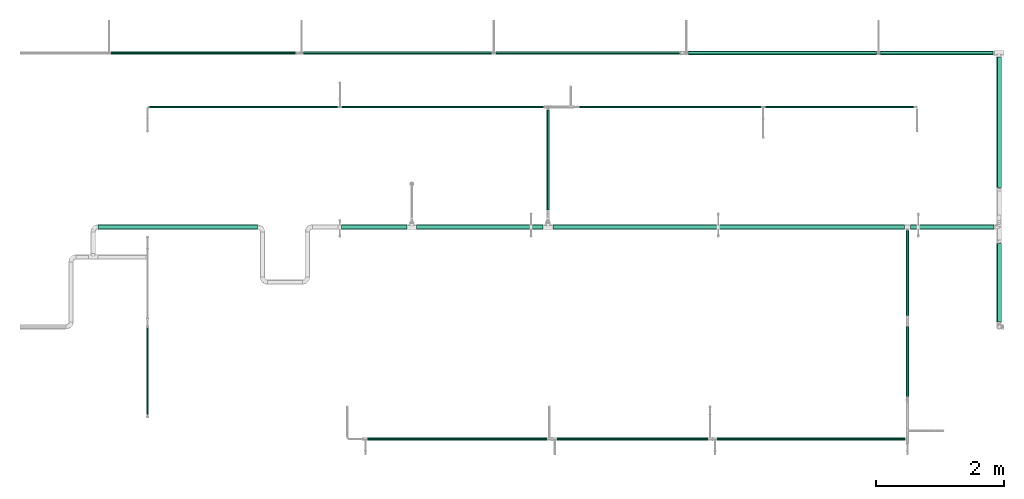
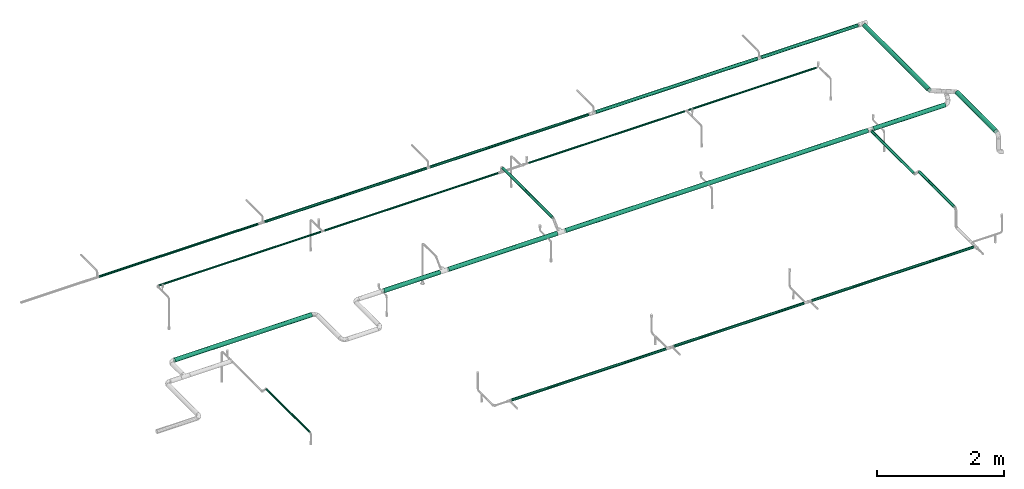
# One storey, part 1 of 51: 23 flow segments.
"""IFC2X3 building model written with IfcOpenShell, lengths in millimetres."""

from ifc_helpers import new_model, entity, si_unit, converted_unit, derived_unit, direction, frame, origin_with_axes, origin_2d_with_axis, place, context, subcontext, project, spatial, hollow_circle, extrude, source, transform, mapped, type_object, element, save


model = new_model("IFC2X3")

# Units and contexts
model_context = context("Model", 3, precision=0.01, world=frame((0.0, 4.29681676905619e-09, 0.0)), true_north=direction((4.01073788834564e-13, 1.0)))
plan_context = context("Plan", 3, precision=0.01, world=frame((0.0, 4.29681676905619e-09, 0.0)), true_north=direction((4.01073788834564e-13, 1.0)))
body_context = subcontext(model_context, "Body", "Model", "MODEL_VIEW")
ifc_project = project(units=[converted_unit("PLANEANGLEUNIT", "DEGREE", entity("IfcPositiveLengthMeasure", 0.0174532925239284), si_unit("PLANEANGLEUNIT", "RADIAN"), dimensions=[0, 0, 0, 0, 0, 0, 0]), si_unit("AREAUNIT", "SQUARE_METRE"), si_unit("LENGTHUNIT", "METRE", prefix="MILLI"), si_unit("MASSUNIT", "GRAM", prefix="KILO"), si_unit("POWERUNIT", "WATT"), si_unit("PRESSUREUNIT", "PASCAL"), si_unit("FORCEUNIT", "NEWTON", prefix="KILO"), si_unit("ELECTRICVOLTAGEUNIT", "VOLT"), si_unit("ELECTRICCURRENTUNIT", "AMPERE"), si_unit("THERMODYNAMICTEMPERATUREUNIT", "DEGREE_CELSIUS"), si_unit("TIMEUNIT", "SECOND"), si_unit("VOLUMEUNIT", "CUBIC_METRE"), derived_unit("LINEARVELOCITYUNIT", [(si_unit("LENGTHUNIT", "METRE"), 1), (si_unit("TIMEUNIT", "SECOND"), -1)]), derived_unit("VOLUMETRICFLOWRATEUNIT", [(si_unit("VOLUMEUNIT", "CUBIC_METRE"), 1), (si_unit("TIMEUNIT", "SECOND"), -1)]), derived_unit("THERMALTRANSMITTANCEUNIT", [(si_unit("POWERUNIT", "WATT"), 1), (si_unit("THERMODYNAMICTEMPERATUREUNIT", "KELVIN"), -1), (si_unit("AREAUNIT", "SQUARE_METRE"), -1)]), derived_unit("SOUNDPRESSUREUNIT", [(si_unit("PRESSUREUNIT", "PASCAL"), 1)])], contexts=[model_context, plan_context])

# Site, building, storey
site_placement = place(None, frame((0.0, -4.29681676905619e-09, 0.0), z_axis=(0.0, 0.0, 1.0), x_axis=(1.0, 0.0, 0.0)))
site = spatial("IfcSite", under=ifc_project, at=site_placement, Name="ENGM", CompositionType="ELEMENT")
building_placement = place(site_placement, frame((0.0, 4.29681676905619e-09, 0.0), z_axis=(0.0, 0.0, 1.0), x_axis=(1.0, 0.0, 0.0)))
building = spatial("IfcBuilding", under=site, at=building_placement, Name="TH", CompositionType="ELEMENT")
storey_placement = place(building_placement, frame((0.0, 0.0, 210200.0), z_axis=(0.0, 0.0, 1.0), x_axis=(1.0, 0.0, 0.0)))
storey = spatial("IfcBuildingStorey", under=building, at=storey_placement, Name="Nivå F - 0,7 m", CompositionType="ELEMENT", Elevation=210200.0)

# Flow segments
pipe_segment_type = type_object("IfcPipeSegmentType", Name="Stålrør normaltykke", PredefinedType="RIGIDSEGMENT")
shared_shape_1 = source(origin_with_axes(), body_context, "Body", "SweptSolid", [
    extrude(hollow_circle(Radius=38.0, WallThickness=2.0, at=origin_2d_with_axis()), frame((0.0, 0.0, 0.0), z_axis=(1.0, 0.0, 0.0), x_axis=(0.0, 1.0, 0.0)), (0.0, 0.0, 1.0), 2038.4),
])
flow_segment_1_placement = place(storey_placement, frame((910379.87531, 486982.95129, 2820.0), z_axis=(0.0, 0.0, 1.0), x_axis=(0.0, -1.0, 0.0)))
element("IfcFlowSegment", 1, at=flow_segment_1_placement, inside=storey, type_object=pipe_segment_type, Name="Stålrør normaltykke", context=body_context, shape_type="MappedRepresentation", body=[
    mapped(shared_shape_1, transform((0.0, 0.0, 0.0), scale=1.0)),
])
shared_shape_2 = source(origin_with_axes(), body_context, "Body", "SweptSolid", [
    extrude(hollow_circle(Radius=38.0, WallThickness=2.0, at=origin_2d_with_axis()), frame((0.0, 0.0, 0.0), z_axis=(1.0, 0.0, 0.0), x_axis=(0.0, 1.0, 0.0)), (0.0, 0.0, 1.0), 1224.1),
])
flow_segment_2_placement = place(storey_placement, frame((910379.87531, 482848.17183, 3300.0337), z_axis=(0.0, 0.0, 1.0), x_axis=(0.0, 1.0, 0.0)))
element("IfcFlowSegment", 2, at=flow_segment_2_placement, inside=storey, type_object=pipe_segment_type, Name="Stålrør normaltykke", context=body_context, shape_type="MappedRepresentation", body=[
    mapped(shared_shape_2, transform((0.0, 0.0, 0.0), scale=1.0)),
])
shared_shape_3 = source(origin_with_axes(), body_context, "Body", "SweptSolid", [
    extrude(hollow_circle(Radius=30.1, WallThickness=2.0, at=origin_2d_with_axis()), frame((0.0, 0.0, 0.0), z_axis=(1.0, 0.0, 0.0), x_axis=(0.0, 1.0, 0.0)), (0.0, 0.0, 1.0), 1754.2),
])
flow_segment_3_placement = place(storey_placement, frame((910287.87531, 487040.10129, 2819.99995999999), z_axis=(0.0, 0.0, 1.0), x_axis=(-1.0, 0.0, 0.0)))
element("IfcFlowSegment", 3, at=flow_segment_3_placement, inside=storey, type_object=pipe_segment_type, Name="Stålrør normaltykke", context=body_context, shape_type="MappedRepresentation", body=[
    mapped(shared_shape_3, transform((0.0, 0.0, 0.0), scale=1.0)),
])
shared_shape_4 = source(origin_with_axes(), body_context, "Body", "SweptSolid", [
    extrude(hollow_circle(Radius=30.1, WallThickness=2.0, at=origin_2d_with_axis()), frame((0.0, 0.0, 0.0), z_axis=(1.0, 0.0, 0.0), x_axis=(0.0, 1.0, 0.0)), (0.0, 0.0, 1.0), 2932.4),
])
flow_segment_4_placement = place(storey_placement, frame((908466.11443, 487040.10129, 2819.99995999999), z_axis=(0.0, 0.0, 1.0), x_axis=(-1.0, 0.0, 0.0)))
element("IfcFlowSegment", 4, at=flow_segment_4_placement, inside=storey, type_object=pipe_segment_type, Name="Stålrør normaltykke", context=body_context, shape_type="MappedRepresentation", body=[
    mapped(shared_shape_4, transform((0.0, 0.0, 0.0), scale=1.0)),
])
shared_shape_5 = source(origin_with_axes(), body_context, "Body", "SweptSolid", [
    extrude(hollow_circle(Radius=24.1, WallThickness=2.0, at=origin_2d_with_axis()), frame((0.0, 0.0, 0.0), z_axis=(1.0, 0.0, 0.0), x_axis=(0.0, 1.0, 0.0)), (0.0, 0.0, 1.0), 2932.4),
])
flow_segment_5_placement = place(storey_placement, frame((902466.11443, 487040.10129, 2819.99995999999), z_axis=(0.0, 0.0, 1.0), x_axis=(-1.0, 0.0, 0.0)))
element("IfcFlowSegment", 5, at=flow_segment_5_placement, inside=storey, type_object=pipe_segment_type, Name="Stålrør normaltykke", context=body_context, shape_type="MappedRepresentation", body=[
    mapped(shared_shape_5, transform((0.0, 0.0, 0.0), scale=1.0)),
])
shared_shape_6 = source(origin_with_axes(), body_context, "Body", "SweptSolid", [
    extrude(hollow_circle(Radius=21.2, WallThickness=2.0, at=origin_2d_with_axis()), frame((0.0, 0.0, 0.0), z_axis=(1.0, 0.0, 0.0), x_axis=(0.0, 1.0, 0.0)), (0.0, 0.0, 1.0), 2876.3),
])
flow_segment_6_placement = place(storey_placement, frame((899410.01443, 487040.10129, 2819.99995999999), z_axis=(0.0, 0.0, 1.0), x_axis=(-1.0, 0.0, 0.0)))
element("IfcFlowSegment", 6, at=flow_segment_6_placement, inside=storey, type_object=pipe_segment_type, Name="Stålrør normaltykke", context=body_context, shape_type="MappedRepresentation", body=[
    mapped(shared_shape_6, transform((0.0, 0.0, 0.0), scale=1.0)),
])
shared_shape_7 = source(origin_with_axes(), body_context, "Body", "SweptSolid", [
    extrude(hollow_circle(Radius=24.1, WallThickness=2.0, at=origin_2d_with_axis()), frame((0.0, 0.0, 0.0), z_axis=(1.0, 0.0, 0.0), x_axis=(0.0, 1.0, 0.0)), (0.0, 0.0, 1.0), 2870.4),
])
flow_segment_7_placement = place(storey_placement, frame((905404.14183, 487040.10129, 2819.99995999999), z_axis=(0.0, 0.0, 1.0), x_axis=(-1.0, 0.0, 0.0)))
element("IfcFlowSegment", 7, at=flow_segment_7_placement, inside=storey, type_object=pipe_segment_type, Name="Stålrør normaltykke", context=body_context, shape_type="MappedRepresentation", body=[
    mapped(shared_shape_7, transform((0.0, 0.0, 0.0), scale=1.0)),
])
shared_shape_8 = source(origin_with_axes(), body_context, "Body", "SweptSolid", [
    extrude(hollow_circle(Radius=24.1, WallThickness=2.0, at=origin_2d_with_axis()), frame((0.0, 0.0, 0.0), z_axis=(1.0, 0.0, 0.0), x_axis=(0.0, 1.0, 0.0)), (0.0, 0.0, 1.0), 1562.2),
])
flow_segment_8_placement = place(storey_placement, frame((903344.15403, 486152.62538, 3053.0), z_axis=(0.0, 0.0, 1.0), x_axis=(0.0, -1.0, 0.0)))
element("IfcFlowSegment", 8, at=flow_segment_8_placement, inside=storey, type_object=pipe_segment_type, Name="Stålrør normaltykke", context=body_context, shape_type="MappedRepresentation", body=[
    mapped(shared_shape_8, transform((0.0, 0.0, 0.0), scale=1.0)),
])
shared_shape_9 = source(origin_with_axes(), body_context, "Body", "SweptSolid", [
    extrude(hollow_circle(Radius=16.9, WallThickness=2.0, at=origin_2d_with_axis()), frame((0.0, 0.0, 0.0), z_axis=(1.0, 0.0, 0.0), x_axis=(0.0, 1.0, 0.0)), (0.0, 0.0, 1.0), 2318.8),
])
flow_segment_9_placement = place(storey_placement, frame((906733.8, 486201.02538, 2949.56988), z_axis=(0.0, 0.0, 1.0), x_axis=(1.0, 0.0, 0.0)))
element("IfcFlowSegment", 9, at=flow_segment_9_placement, inside=storey, type_object=pipe_segment_type, Name="Stålrør normaltykke", context=body_context, shape_type="MappedRepresentation", body=[
    mapped(shared_shape_9, transform((0.0, 0.0, 0.0), scale=1.0)),
])
shared_shape_10 = source(origin_with_axes(), body_context, "Body", "SweptSolid", [
    extrude(hollow_circle(Radius=16.9, WallThickness=2.0, at=origin_2d_with_axis()), frame((0.0, 0.0, 0.0), z_axis=(1.0, 0.0, 0.0), x_axis=(0.0, 1.0, 0.0)), (0.0, 0.0, 1.0), 2932.4),
])
flow_segment_10_placement = place(storey_placement, frame((900066.2, 486201.02538, 2949.56988), z_axis=(0.0, 0.0, 1.0), x_axis=(-1.0, 0.0, 0.0)))
element("IfcFlowSegment", 10, at=flow_segment_10_placement, inside=storey, type_object=pipe_segment_type, Name="Stålrør normaltykke", context=body_context, shape_type="MappedRepresentation", body=[
    mapped(shared_shape_10, transform((0.0, 0.0, 0.0), scale=1.0)),
])
shared_shape_11 = source(origin_with_axes(), body_context, "Body", "SweptSolid", [
    extrude(hollow_circle(Radius=24.1, WallThickness=2.0, at=origin_2d_with_axis()), frame((0.0, 0.0, 0.0), z_axis=(1.0, 0.0, 0.0), x_axis=(0.0, 1.0, 0.0)), (0.0, 0.0, 1.0), 1096.7),
])
flow_segment_11_placement = place(storey_placement, frame((908949.82472, 481683.76097, 3060.0), z_axis=(0.0, 0.0, 1.0), x_axis=(0.0, 1.0, 0.0)))
element("IfcFlowSegment", 11, at=flow_segment_11_placement, inside=storey, type_object=pipe_segment_type, Name="Stålrør normaltykke", context=body_context, shape_type="MappedRepresentation", body=[
    mapped(shared_shape_11, transform((0.0, 0.0, 0.0), scale=1.0)),
])
shared_shape_12 = source(origin_with_axes(), body_context, "Body", "SweptSolid", [
    extrude(hollow_circle(Radius=24.1, WallThickness=2.0, at=origin_2d_with_axis()), frame((0.0, 0.0, 0.0), z_axis=(1.0, 0.0, 0.0), x_axis=(0.0, 1.0, 0.0)), (0.0, 0.0, 1.0), 1324.7),
])
flow_segment_12_placement = place(storey_placement, frame((908949.82472, 482947.55976, 2933.0), z_axis=(0.0, 0.0, 1.0), x_axis=(0.0, 1.0, 0.0)))
element("IfcFlowSegment", 12, at=flow_segment_12_placement, inside=storey, type_object=pipe_segment_type, Name="Stålrør normaltykke", context=body_context, shape_type="MappedRepresentation", body=[
    mapped(shared_shape_12, transform((0.0, 0.0, 0.0), scale=1.0)),
])
shared_shape_13 = source(origin_with_axes(), body_context, "Body", "SweptSolid", [
    extrude(hollow_circle(Radius=24.1, WallThickness=2.0, at=origin_2d_with_axis()), frame((0.0, 0.0, 0.0), z_axis=(1.0, 0.0, 0.0), x_axis=(0.0, 1.0, 0.0)), (0.0, 0.0, 1.0), 2929.9),
])
flow_segment_13_placement = place(storey_placement, frame((905983.62472, 481023.05237, 2700.0), z_axis=(0.0, 0.0, 1.0), x_axis=(1.0, 0.0, 0.0)))
element("IfcFlowSegment", 13, at=flow_segment_13_placement, inside=storey, type_object=pipe_segment_type, Name="Stålrør normaltykke", context=body_context, shape_type="MappedRepresentation", body=[
    mapped(shared_shape_13, transform((0.0, 0.0, 0.0), scale=1.0)),
])
shared_shape_14 = source(origin_with_axes(), body_context, "Body", "SweptSolid", [
    extrude(hollow_circle(Radius=16.9, WallThickness=2.0, at=origin_2d_with_axis()), frame((0.0, 0.0, 0.0), z_axis=(1.0, 0.0, 0.0), x_axis=(0.0, 1.0, 0.0)), (0.0, 0.0, 1.0), 1358.1),
])
flow_segment_14_placement = place(storey_placement, frame((897100.0, 482761.08341, 3056.95199999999), z_axis=(0.0, 0.0, 1.0), x_axis=(0.0, -1.0, 0.0)))
element("IfcFlowSegment", 14, at=flow_segment_14_placement, inside=storey, type_object=pipe_segment_type, Name="Stålrør normaltykke", context=body_context, shape_type="MappedRepresentation", body=[
    mapped(shared_shape_14, transform((0.0, 0.0, 0.0), scale=1.0)),
])
shared_shape_15 = source(origin_with_axes(), body_context, "Body", "SweptSolid", [
    extrude(hollow_circle(Radius=16.9, WallThickness=2.0, at=origin_2d_with_axis()), frame((0.0, 0.0, 0.0), z_axis=(1.0, 0.0, 0.0), x_axis=(0.0, 1.0, 0.0)), (0.0, 0.0, 1.0), 3147.4),
])
flow_segment_15_placement = place(storey_placement, frame((903281.15403, 486201.02538, 2949.56988), z_axis=(0.0, 0.0, 1.0), x_axis=(-1.0, 0.0, 0.0)))
element("IfcFlowSegment", 15, at=flow_segment_15_placement, inside=storey, type_object=pipe_segment_type, Name="Stålrør normaltykke", context=body_context, shape_type="MappedRepresentation", body=[
    mapped(shared_shape_15, transform((0.0, 0.0, 0.0), scale=1.0)),
])
shared_shape_16 = source(origin_with_axes(), body_context, "Body", "SweptSolid", [
    extrude(hollow_circle(Radius=16.9, WallThickness=2.0, at=origin_2d_with_axis()), frame((0.0, 0.0, 0.0), z_axis=(1.0, 0.0, 0.0), x_axis=(0.0, 1.0, 0.0)), (0.0, 0.0, 1.0), 2832.4),
])
flow_segment_16_placement = place(storey_placement, frame((903833.8, 486201.02538, 2949.56988), z_axis=(0.0, 0.0, 1.0), x_axis=(1.0, 0.0, 0.0)))
element("IfcFlowSegment", 16, at=flow_segment_16_placement, inside=storey, type_object=pipe_segment_type, Name="Stålrør normaltykke", context=body_context, shape_type="MappedRepresentation", body=[
    mapped(shared_shape_16, transform((0.0, 0.0, 0.0), scale=1.0)),
])
shared_shape_17 = source(origin_with_axes(), body_context, "Body", "SweptSolid", [
    extrude(hollow_circle(Radius=24.1, WallThickness=2.0, at=origin_2d_with_axis()), frame((0.0, 0.0, 0.0), z_axis=(1.0, 0.0, 0.0), x_axis=(0.0, 1.0, 0.0)), (0.0, 0.0, 1.0), 2353.6),
])
flow_segment_17_placement = place(storey_placement, frame((903483.62472, 481023.05237, 2700.0), z_axis=(0.0, 0.0, 1.0), x_axis=(1.0, 0.0, 0.0)))
element("IfcFlowSegment", 17, at=flow_segment_17_placement, inside=storey, type_object=pipe_segment_type, Name="Stålrør normaltykke", context=body_context, shape_type="MappedRepresentation", body=[
    mapped(shared_shape_17, transform((0.0, 0.0, 0.0), scale=1.0)),
])
shared_shape_18 = source(origin_with_axes(), body_context, "Body", "SweptSolid", [
    extrude(hollow_circle(Radius=24.1, WallThickness=2.0, at=origin_2d_with_axis()), frame((0.0, 0.0, 0.0), z_axis=(1.0, 0.0, 0.0), x_axis=(0.0, 1.0, 0.0)), (0.0, 0.0, 1.0), 2798.6),
])
flow_segment_18_placement = place(storey_placement, frame((900533.62472, 481023.05237, 2700.0), z_axis=(0.0, 0.0, 1.0), x_axis=(1.0, 0.0, 0.0)))
element("IfcFlowSegment", 18, at=flow_segment_18_placement, inside=storey, type_object=pipe_segment_type, Name="Stålrør normaltykke", context=body_context, shape_type="MappedRepresentation", body=[
    mapped(shared_shape_18, transform((0.0, 0.0, 0.0), scale=1.0)),
])
shared_shape_19 = source(origin_with_axes(), body_context, "Body", "SweptSolid", [
    extrude(hollow_circle(Radius=38.0, WallThickness=2.0, at=origin_2d_with_axis()), frame((0.0, 0.0, 0.0), z_axis=(1.0, 0.0, 0.0), x_axis=(0.0, 1.0, 0.0)), (0.0, 0.0, 1.0), 1305.5),
])
flow_segment_19_placement = place(storey_placement, frame((908998.22472, 484329.45519, 2933.0), z_axis=(0.0, 0.0, 1.0), x_axis=(1.0, 0.0, 0.0)))
element("IfcFlowSegment", 19, at=flow_segment_19_placement, inside=storey, type_object=pipe_segment_type, Name="Stålrør normaltykke", context=body_context, shape_type="MappedRepresentation", body=[
    mapped(shared_shape_19, transform((0.0, 0.0, 0.0), scale=1.0)),
])
shared_shape_20 = source(origin_with_axes(), body_context, "Body", "SweptSolid", [
    extrude(hollow_circle(Radius=38.0, WallThickness=2.0, at=origin_2d_with_axis()), frame((0.0, 0.0, 0.0), z_axis=(1.0, 0.0, 0.0), x_axis=(0.0, 1.0, 0.0)), (0.0, 0.0, 1.0), 1017.9),
])
flow_segment_20_placement = place(storey_placement, frame((900126.8, 484329.45519, 2933.0), z_axis=(0.0, 0.0, 1.0), x_axis=(1.0, 0.0, 0.0)))
element("IfcFlowSegment", 20, at=flow_segment_20_placement, inside=storey, type_object=pipe_segment_type, Name="Stålrør normaltykke", context=body_context, shape_type="MappedRepresentation", body=[
    mapped(shared_shape_20, transform((0.0, 0.0, 0.0), scale=1.0)),
])
shared_shape_21 = source(origin_with_axes(), body_context, "Body", "SweptSolid", [
    extrude(hollow_circle(Radius=38.0, WallThickness=2.0, at=origin_2d_with_axis()), frame((0.0, 0.0, 0.0), z_axis=(1.0, 0.0, 0.0), x_axis=(0.0, 1.0, 0.0)), (0.0, 0.0, 1.0), 1970.8),
])
flow_segment_21_placement = place(storey_placement, frame((901297.13402, 484329.45519, 2933.0), z_axis=(0.0, 0.0, 1.0), x_axis=(1.0, 0.0, 0.0)))
element("IfcFlowSegment", 21, at=flow_segment_21_placement, inside=storey, type_object=pipe_segment_type, Name="Stålrør normaltykke", context=body_context, shape_type="MappedRepresentation", body=[
    mapped(shared_shape_21, transform((0.0, 0.0, 0.0), scale=1.0)),
])
shared_shape_22 = source(origin_with_axes(), body_context, "Body", "SweptSolid", [
    extrude(hollow_circle(Radius=38.0, WallThickness=2.0, at=origin_2d_with_axis()), frame((0.0, 0.0, 0.0), z_axis=(1.0, 0.0, 0.0), x_axis=(0.0, 1.0, 0.0)), (0.0, 0.0, 1.0), 2487.6),
])
flow_segment_22_placement = place(storey_placement, frame((896329.1663, 484329.45519, 2933.0), z_axis=(0.0, 0.0, 1.0), x_axis=(1.0, 0.0, 0.0)))
element("IfcFlowSegment", 22, at=flow_segment_22_placement, inside=storey, type_object=pipe_segment_type, Name="Stålrør normaltykke", context=body_context, shape_type="MappedRepresentation", body=[
    mapped(shared_shape_22, transform((0.0, 0.0, 0.0), scale=1.0)),
])
shared_shape_23 = source(origin_with_axes(), body_context, "Body", "SweptSolid", [
    extrude(hollow_circle(Radius=38.0, WallThickness=2.0, at=origin_2d_with_axis()), frame((0.0, 0.0, 0.0), z_axis=(1.0, 0.0, 0.0), x_axis=(0.0, 1.0, 0.0)), (0.0, 0.0, 1.0), 5481.1),
])
flow_segment_23_placement = place(storey_placement, frame((903420.35403, 484329.45519, 2933.0), z_axis=(0.0, 0.0, 1.0), x_axis=(1.0, 0.0, 0.0)))
element("IfcFlowSegment", 23, at=flow_segment_23_placement, inside=storey, type_object=pipe_segment_type, Name="Stålrør normaltykke", context=body_context, shape_type="MappedRepresentation", body=[
    mapped(shared_shape_23, transform((0.0, 0.0, 0.0), scale=1.0)),
])

save(model, "model.ifc")
